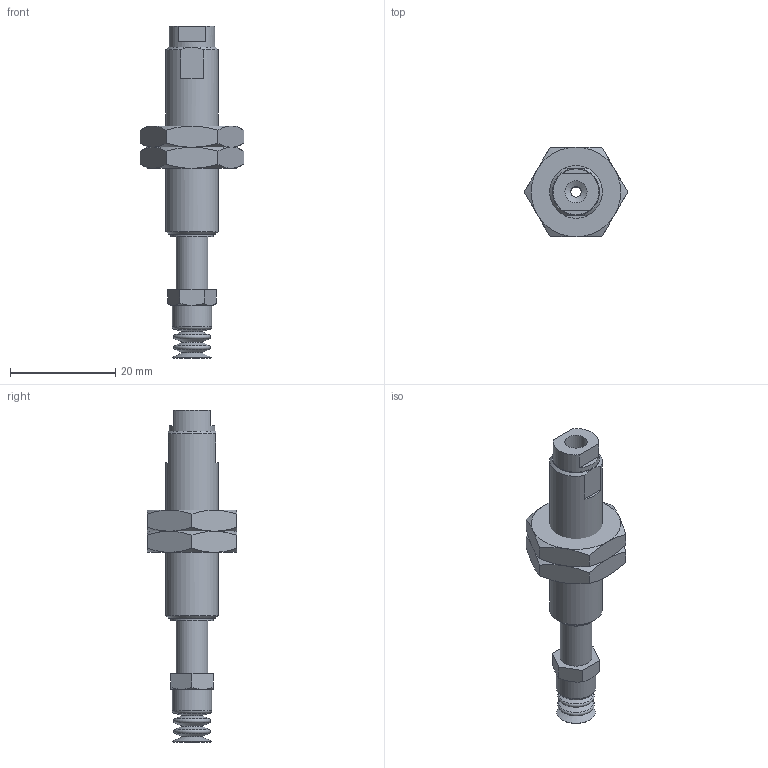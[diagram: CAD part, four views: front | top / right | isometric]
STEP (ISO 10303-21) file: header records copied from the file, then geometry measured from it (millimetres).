
FILE_DESCRIPTION(('STEP AP203'),'1');
FILE_NAME('-LB.stp','2025-04-04T01:23:42',(' '),(' '),'Spatial InterOp 3D',' ',' ');
FILE_SCHEMA(('CONFIG_CONTROL_DESIGN'));
Length unit declared in the file: millimetre
Products named in the file (8): BNABPCTH-7-10-※-LB; __; BODY; NUT; TN-PS-10-M5; Setting screws-TN-PS-10-M5; BPCG-7-※
Assembly tree (7 placements, depth 3):
  BNABPCTH-7-10-※-LB
    __
    BODY
    NUT
    NUT
    TN-PS-10-M5
      Setting screws-TN-PS-10-M5
    BPCG-7-※
Bounding box: 19.63 x 17 x 63 mm (x, y, z)
Volume: 4992.7 mm3; surface area: 4337.1 mm2
Topology: 6 solids, 6 shells, 133 faces, 275 edges, 162 vertices
Faces by surface type: plane 58, cone 45, cylinder 18, torus 12
Full cylindrical faces by diameter (mm): 2 x3, 3.9 x1, 4 x2, 4.2 x2, 5 x1, 6 x3, 7.5 x1, 8 x1, 8.7 x1, 9 x2, 10 x1
Entity records: 3754 total; most frequent: CARTESIAN_POINT 762, DIRECTION 552, ORIENTED_EDGE 458, AXIS2_PLACEMENT_3D 245, EDGE_CURVE 229, EDGE_LOOP 196, FACE_OUTER_BOUND 163, VERTEX_POINT 159
